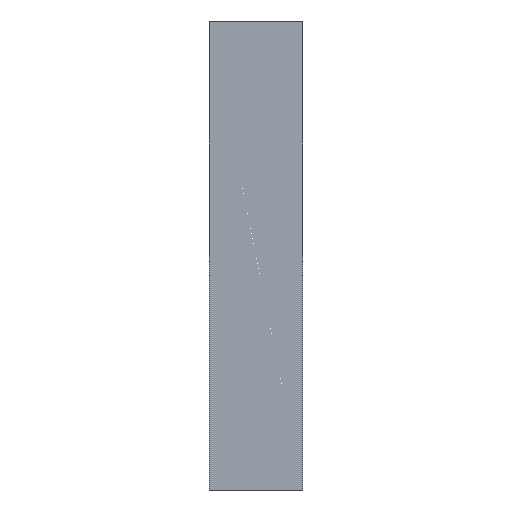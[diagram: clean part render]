
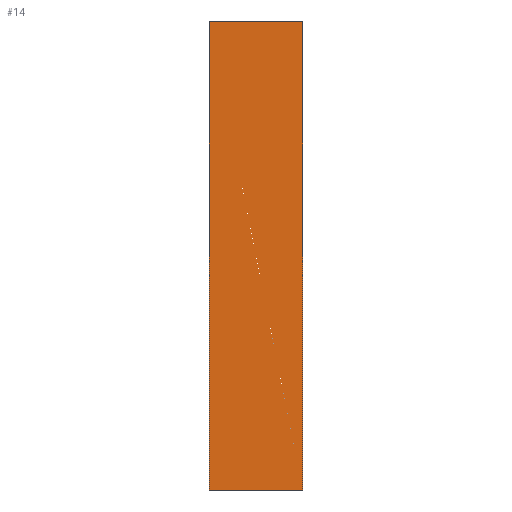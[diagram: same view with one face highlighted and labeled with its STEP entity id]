
A CAD part, front view. The second image highlights one B-rep face of the part: STEP entity #14.
In plain terms, the highlighted planar face has unit normal (0, -1, 0).
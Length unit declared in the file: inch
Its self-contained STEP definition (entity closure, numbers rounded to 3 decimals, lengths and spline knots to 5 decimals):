
#14=ADVANCED_FACE('',(#20),#88,.T.);
#20=FACE_OUTER_BOUND('',#26,.T.);
#26=EDGE_LOOP('',(#32,#33,#34,#35));
#32=ORIENTED_EDGE('',*,*,#56,.T.);
#33=ORIENTED_EDGE('',*,*,#65,.T.);
#34=ORIENTED_EDGE('',*,*,#60,.F.);
#35=ORIENTED_EDGE('',*,*,#64,.F.);
#56=EDGE_CURVE('',#80,#81,#68,.T.);
#60=EDGE_CURVE('',#84,#85,#72,.T.);
#64=EDGE_CURVE('',#80,#84,#76,.T.);
#65=EDGE_CURVE('',#81,#85,#77,.T.);
#68=B_SPLINE_CURVE_WITH_KNOTS('',1,(#217,#218),.UNSPECIFIED.,.F.,.F.,(2,
2),(0.,2.),.UNSPECIFIED.);
#72=B_SPLINE_CURVE_WITH_KNOTS('',1,(#225,#226),.UNSPECIFIED.,.F.,.F.,(2,
2),(0.,2.),.UNSPECIFIED.);
#76=B_SPLINE_CURVE_WITH_KNOTS('',1,(#233,#234),.UNSPECIFIED.,.F.,.F.,(2,
2),(0.,10.),.UNSPECIFIED.);
#77=B_SPLINE_CURVE_WITH_KNOTS('',1,(#235,#236),.UNSPECIFIED.,.F.,.F.,(2,
2),(0.,10.),.UNSPECIFIED.);
#80=VERTEX_POINT('',#209);
#81=VERTEX_POINT('',#210);
#84=VERTEX_POINT('',#213);
#85=VERTEX_POINT('',#214);
#88=PLANE('',#185);
#185=AXIS2_PLACEMENT_3D('',#203,#194,$);
#194=DIRECTION('',(0.,-1.,0.));
#203=CARTESIAN_POINT('',(0.,0.,0.));
#209=CARTESIAN_POINT('',(0.,0.,0.));
#210=CARTESIAN_POINT('',(2.,0.,0.));
#213=CARTESIAN_POINT('',(0.,0.,10.));
#214=CARTESIAN_POINT('',(2.,0.,10.));
#217=CARTESIAN_POINT('',(0.,0.,0.));
#218=CARTESIAN_POINT('',(2.,0.,0.));
#225=CARTESIAN_POINT('',(0.,0.,10.));
#226=CARTESIAN_POINT('',(2.,0.,10.));
#233=CARTESIAN_POINT('',(0.,0.,0.));
#234=CARTESIAN_POINT('',(0.,0.,10.));
#235=CARTESIAN_POINT('',(2.,0.,0.));
#236=CARTESIAN_POINT('',(2.,0.,10.));
